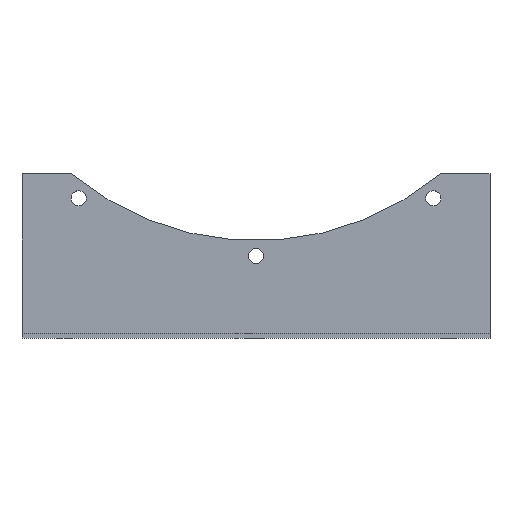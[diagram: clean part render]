
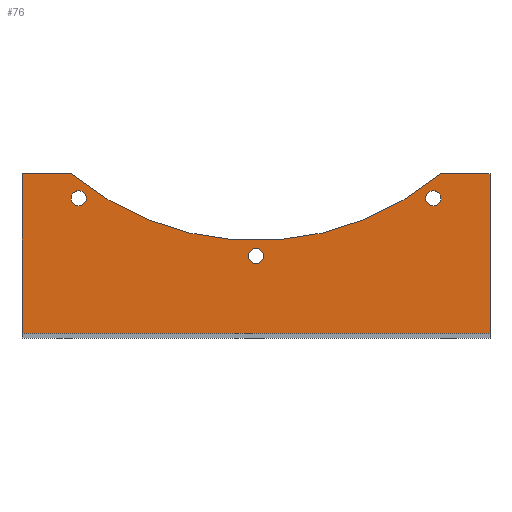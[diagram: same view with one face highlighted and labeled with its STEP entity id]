
A CAD part, top view. The second image highlights one B-rep face of the part: STEP entity #76.
In plain terms, the highlighted planar face has unit normal (0, 0, 1).
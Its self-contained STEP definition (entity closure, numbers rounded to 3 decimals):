
#76=ADVANCED_FACE('',(#155,#156,#157,#158),#159,.T.);
#155=FACE_BOUND('',#240,.T.);
#156=FACE_BOUND('',#241,.T.);
#157=FACE_BOUND('',#242,.T.);
#158=FACE_OUTER_BOUND('',#243,.T.);
#159=PLANE('',#244);
#240=EDGE_LOOP('',(#399,#400));
#241=EDGE_LOOP('',(#401,#402));
#242=EDGE_LOOP('',(#403,#404));
#243=EDGE_LOOP('',(#405,#406,#407,#408,#409,#410));
#244=AXIS2_PLACEMENT_3D('',#411,#412,#413);
#399=ORIENTED_EDGE('',*,*,#505,.T.);
#400=ORIENTED_EDGE('',*,*,#510,.T.);
#401=ORIENTED_EDGE('',*,*,#500,.T.);
#402=ORIENTED_EDGE('',*,*,#513,.T.);
#403=ORIENTED_EDGE('',*,*,#495,.T.);
#404=ORIENTED_EDGE('',*,*,#516,.T.);
#405=ORIENTED_EDGE('',*,*,#518,.T.);
#406=ORIENTED_EDGE('',*,*,#541,.F.);
#407=ORIENTED_EDGE('',*,*,#542,.F.);
#408=ORIENTED_EDGE('',*,*,#543,.F.);
#409=ORIENTED_EDGE('',*,*,#544,.F.);
#410=ORIENTED_EDGE('',*,*,#529,.F.);
#411=CARTESIAN_POINT('',(0.0,4.0,-8.0));
#412=DIRECTION('',(0.0,0.0,1.0));
#413=DIRECTION('',(1.0,0.0,0.0));
#495=EDGE_CURVE('',#591,#588,#592,.T.);
#500=EDGE_CURVE('',#600,#597,#601,.T.);
#505=EDGE_CURVE('',#609,#606,#610,.T.);
#510=EDGE_CURVE('',#606,#609,#616,.T.);
#513=EDGE_CURVE('',#597,#600,#619,.T.);
#516=EDGE_CURVE('',#588,#591,#622,.T.);
#518=EDGE_CURVE('',#624,#625,#626,.T.);
#529=EDGE_CURVE('',#624,#643,#644,.T.);
#541=EDGE_CURVE('',#656,#625,#657,.T.);
#542=EDGE_CURVE('',#658,#656,#659,.T.);
#543=EDGE_CURVE('',#660,#658,#661,.T.);
#544=EDGE_CURVE('',#643,#660,#662,.T.);
#588=VERTEX_POINT('',#716);
#591=VERTEX_POINT('',#720);
#592=CIRCLE('',#721,6.25);
#597=VERTEX_POINT('',#727);
#600=VERTEX_POINT('',#731);
#601=CIRCLE('',#732,6.25);
#606=VERTEX_POINT('',#738);
#609=VERTEX_POINT('',#742);
#610=CIRCLE('',#743,6.25);
#616=CIRCLE('',#750,6.25);
#619=CIRCLE('',#753,6.25);
#622=CIRCLE('',#756,6.25);
#624=VERTEX_POINT('',#758);
#625=VERTEX_POINT('',#759);
#626=CIRCLE('',#760,235.0);
#643=VERTEX_POINT('',#784);
#644=LINE('',#785,#786);
#656=VERTEX_POINT('',#799);
#657=LINE('',#800,#801);
#658=VERTEX_POINT('',#802);
#659=LINE('',#803,#804);
#660=VERTEX_POINT('',#805);
#661=LINE('',#806,#807);
#662=LINE('',#808,#809);
#716=CARTESIAN_POINT('',(6.25,0.,-8.0));
#720=CARTESIAN_POINT('',(-6.25,0.,-8.0));
#721=AXIS2_PLACEMENT_3D('',#863,#864,#865);
#727=CARTESIAN_POINT('',(150.533,50.942,-8.0));
#731=CARTESIAN_POINT('',(140.42,43.595,-8.0));
#732=AXIS2_PLACEMENT_3D('',#871,#872,#873);
#738=CARTESIAN_POINT('',(-140.42,43.595,-8.0));
#742=CARTESIAN_POINT('',(-150.533,50.942,-8.0));
#743=AXIS2_PLACEMENT_3D('',#879,#880,#881);
#750=AXIS2_PLACEMENT_3D('',#889,#890,#891);
#753=AXIS2_PLACEMENT_3D('',#895,#896,#897);
#756=AXIS2_PLACEMENT_3D('',#901,#902,#903);
#758=CARTESIAN_POINT('',(151.079,67.5,-8.0));
#759=CARTESIAN_POINT('',(-151.079,67.5,-8.0));
#760=AXIS2_PLACEMENT_3D('',#904,#905,#906);
#784=CARTESIAN_POINT('',(192.0,67.5,-8.0));
#785=CARTESIAN_POINT('',(0.0,67.5,-8.0));
#786=VECTOR('',#917,1.0);
#799=CARTESIAN_POINT('',(-192.0,67.5,-8.0));
#800=CARTESIAN_POINT('',(0.0,67.5,-8.0));
#801=VECTOR('',#937,1.0);
#802=CARTESIAN_POINT('',(-192.0,-63.5,-8.0));
#803=CARTESIAN_POINT('',(-192.0,2.0,-8.0));
#804=VECTOR('',#938,1.0);
#805=CARTESIAN_POINT('',(192.0,-63.5,-8.0));
#806=CARTESIAN_POINT('',(0.0,-63.5,-8.0));
#807=VECTOR('',#939,1.0);
#808=CARTESIAN_POINT('',(192.0,2.0,-8.0));
#809=VECTOR('',#940,1.0);
#863=CARTESIAN_POINT('',(0.0,0.0,-8.0));
#864=DIRECTION('',(0.0,0.0,-1.0));
#865=DIRECTION('',(1.0,0.0,0.0));
#871=CARTESIAN_POINT('',(145.477,47.268,-8.0));
#872=DIRECTION('',(0.0,0.0,-1.0));
#873=DIRECTION('',(0.809,0.588,0.0));
#879=CARTESIAN_POINT('',(-145.477,47.268,-8.0));
#880=DIRECTION('',(0.0,-0.0,-1.0));
#881=DIRECTION('',(0.809,-0.588,0.0));
#889=CARTESIAN_POINT('',(-145.477,47.268,-8.0));
#890=DIRECTION('',(0.0,-0.0,-1.0));
#891=DIRECTION('',(0.809,-0.588,0.0));
#895=CARTESIAN_POINT('',(145.477,47.268,-8.0));
#896=DIRECTION('',(0.0,0.0,-1.0));
#897=DIRECTION('',(0.809,0.588,0.0));
#901=CARTESIAN_POINT('',(0.0,0.0,-8.0));
#902=DIRECTION('',(0.0,0.0,-1.0));
#903=DIRECTION('',(1.0,0.0,0.0));
#904=CARTESIAN_POINT('',(0.0,247.5,-8.0));
#905=DIRECTION('',(0.0,0.0,-1.0));
#906=DIRECTION('',(1.0,0.0,0.0));
#917=DIRECTION('',(1.0,0.0,-0.0));
#937=DIRECTION('',(1.0,0.0,-0.0));
#938=DIRECTION('',(0.0,1.0,0.0));
#939=DIRECTION('',(-1.0,0.0,0.0));
#940=DIRECTION('',(0.0,-1.0,0.0));
